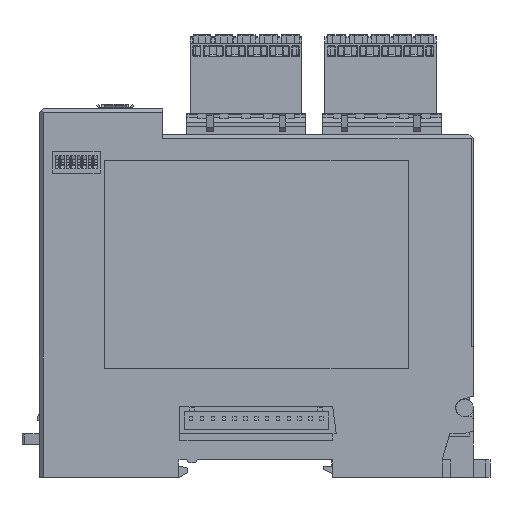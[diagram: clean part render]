
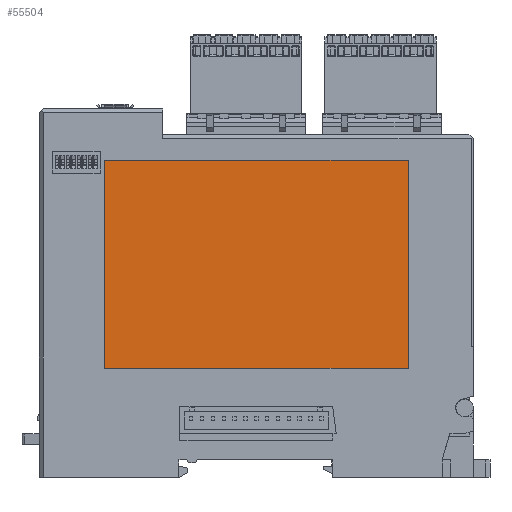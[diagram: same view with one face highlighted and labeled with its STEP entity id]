
A CAD part, left-side view. The second image highlights one B-rep face of the part: STEP entity #55504.
In plain terms, the highlighted planar face has unit normal (-1, 0, 0).
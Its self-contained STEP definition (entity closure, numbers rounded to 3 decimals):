
#1442 = AXIS2_PLACEMENT_3D ( 'NONE', #73893, #72943, #6512 ) ;
#2682 = CARTESIAN_POINT ( 'NONE',  ( -14.7, 35.01, -17.46 ) ) ;
#3194 = VERTEX_POINT ( 'NONE', #63459 ) ;
#6512 = DIRECTION ( 'NONE',  ( 0., 0., 1. ) ) ;
#7995 = CARTESIAN_POINT ( 'NONE',  ( -14.7, 35.01, -17.46 ) ) ;
#10341 = DIRECTION ( 'NONE',  ( 0., 0., 1. ) ) ;
#12228 = EDGE_LOOP ( 'NONE', ( #70858, #17993, #73695, #34219 ) ) ;
#17993 = ORIENTED_EDGE ( 'NONE', *, *, #38979, .T. ) ;
#18206 = LINE ( 'NONE', #73131, #33669 ) ;
#19158 = VERTEX_POINT ( 'NONE', #31689 ) ;
#20396 = EDGE_CURVE ( 'NONE', #19158, #84110, #76321, .T. ) ;
#24320 = DIRECTION ( 'NONE',  ( 0., -1., 0. ) ) ;
#24842 = CARTESIAN_POINT ( 'NONE',  ( -14.7, 35.01, -17.46 ) ) ;
#31689 = CARTESIAN_POINT ( 'NONE',  ( -14.7, 35.01, 30.55 ) ) ;
#32804 = VECTOR ( 'NONE', #62603, 1000. ) ;
#33669 = VECTOR ( 'NONE', #10341, 1000. ) ;
#34219 = ORIENTED_EDGE ( 'NONE', *, *, #20396, .T. ) ;
#38588 = LINE ( 'NONE', #2682, #83094 ) ;
#38979 = EDGE_CURVE ( 'NONE', #60259, #3194, #18206, .T. ) ;
#42939 = PLANE ( 'NONE',  #1442 ) ;
#43812 = CARTESIAN_POINT ( 'NONE',  ( -14.7, -35., -17.46 ) ) ;
#44524 = EDGE_CURVE ( 'NONE', #3194, #19158, #55705, .T. ) ;
#55504 = ADVANCED_FACE ( 'NONE', ( #81232 ), #42939, .T. ) ;
#55705 = LINE ( 'NONE', #85680, #32804 ) ;
#60259 = VERTEX_POINT ( 'NONE', #43812 ) ;
#61099 = DIRECTION ( 'NONE',  ( 0., 0., -1. ) ) ;
#62603 = DIRECTION ( 'NONE',  ( 0., 1., 0. ) ) ;
#63459 = CARTESIAN_POINT ( 'NONE',  ( -14.7, -35., 30.55 ) ) ;
#69130 = EDGE_CURVE ( 'NONE', #84110, #60259, #38588, .T. ) ;
#70858 = ORIENTED_EDGE ( 'NONE', *, *, #69130, .T. ) ;
#72943 = DIRECTION ( 'NONE',  ( -1., 0., 0. ) ) ;
#73131 = CARTESIAN_POINT ( 'NONE',  ( -14.7, -35., -17.46 ) ) ;
#73695 = ORIENTED_EDGE ( 'NONE', *, *, #44524, .T. ) ;
#73893 = CARTESIAN_POINT ( 'NONE',  ( -14.7, 0., 0. ) ) ;
#75940 = VECTOR ( 'NONE', #61099, 1000. ) ;
#76321 = LINE ( 'NONE', #7995, #75940 ) ;
#81232 = FACE_OUTER_BOUND ( 'NONE', #12228, .T. ) ;
#83094 = VECTOR ( 'NONE', #24320, 1000. ) ;
#84110 = VERTEX_POINT ( 'NONE', #24842 ) ;
#85680 = CARTESIAN_POINT ( 'NONE',  ( -14.7, 35.01, 30.55 ) ) ;
